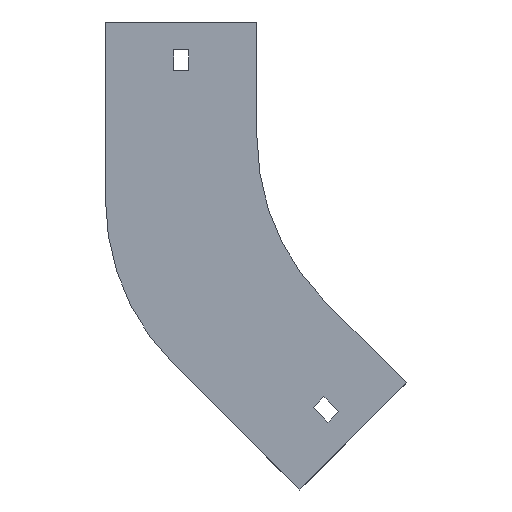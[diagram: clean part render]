
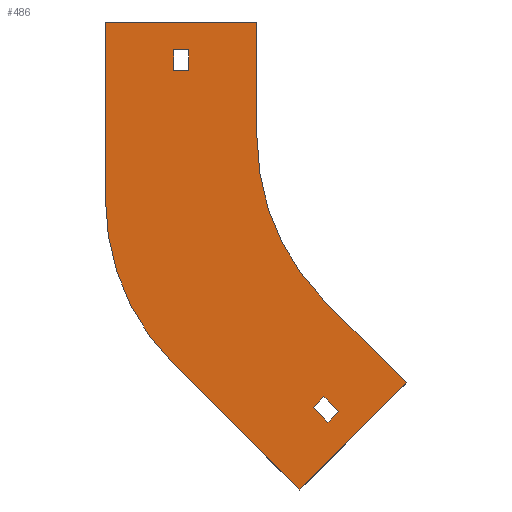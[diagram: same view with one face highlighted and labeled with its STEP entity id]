
A CAD part, front view. The second image highlights one B-rep face of the part: STEP entity #486.
In plain terms, the highlighted planar face has unit normal (0, -1, 0).
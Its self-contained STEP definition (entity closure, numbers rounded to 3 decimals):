
#20 = DIRECTION ( 'NONE',  ( 0., 0., 1. ) ) ;
#21 = VERTEX_POINT ( 'NONE', #853 ) ;
#24 = AXIS2_PLACEMENT_3D ( 'NONE', #1040, #64, #501 ) ;
#31 = VECTOR ( 'NONE', #1288, 1000. ) ;
#46 = EDGE_CURVE ( 'NONE', #248, #1009, #1381, .T. ) ;
#62 = EDGE_CURVE ( 'NONE', #21, #148, #1376, .T. ) ;
#64 = DIRECTION ( 'NONE',  ( 0., -1., 0. ) ) ;
#68 = VECTOR ( 'NONE', #1026, 1000. ) ;
#76 = EDGE_CURVE ( 'NONE', #832, #744, #741, .T. ) ;
#130 = LINE ( 'NONE', #1358, #434 ) ;
#133 = DIRECTION ( 'NONE',  ( 0., 1., 0. ) ) ;
#142 = CARTESIAN_POINT ( 'NONE',  ( -100., 0., 50. ) ) ;
#148 = VERTEX_POINT ( 'NONE', #1196 ) ;
#167 = DIRECTION ( 'NONE',  ( 0.707, 0., -0.707 ) ) ;
#185 = LINE ( 'NONE', #625, #1278 ) ;
#203 = LINE ( 'NONE', #1181, #724 ) ;
#206 = ORIENTED_EDGE ( 'NONE', *, *, #76, .F. ) ;
#208 = VERTEX_POINT ( 'NONE', #1221 ) ;
#220 = ORIENTED_EDGE ( 'NONE', *, *, #622, .F. ) ;
#222 = EDGE_CURVE ( 'NONE', #1009, #208, #185, .T. ) ;
#224 = CARTESIAN_POINT ( 'NONE',  ( -136., 0., 29. ) ) ;
#227 = VERTEX_POINT ( 'NONE', #633 ) ;
#230 = VERTEX_POINT ( 'NONE', #522 ) ;
#235 = ORIENTED_EDGE ( 'NONE', *, *, #222, .T. ) ;
#247 = CARTESIAN_POINT ( 'NONE',  ( -65.5, 0., -27.131 ) ) ;
#248 = VERTEX_POINT ( 'NONE', #586 ) ;
#299 = CIRCLE ( 'NONE', #1083, 100. ) ;
#305 = CARTESIAN_POINT ( 'NONE',  ( -136.211, 0., -97.842 ) ) ;
#312 = DIRECTION ( 'NONE',  ( 1., 0., 0. ) ) ;
#331 = VECTOR ( 'NONE', #334, 1000. ) ;
#334 = DIRECTION ( 'NONE',  ( 0., 0., -1. ) ) ;
#345 = ORIENTED_EDGE ( 'NONE', *, *, #46, .T. ) ;
#347 = VECTOR ( 'NONE', #167, 1000. ) ;
#357 = CARTESIAN_POINT ( 'NONE',  ( -100., 0., 0. ) ) ;
#383 = EDGE_CURVE ( 'NONE', #1054, #573, #1148, .T. ) ;
#398 = VECTOR ( 'NONE', #1240, 1000. ) ;
#432 = ORIENTED_EDGE ( 'NONE', *, *, #987, .F. ) ;
#434 = VECTOR ( 'NONE', #798, 1000. ) ;
#468 = ORIENTED_EDGE ( 'NONE', *, *, #1116, .F. ) ;
#486 = ADVANCED_FACE ( 'NONE', ( #1030, #492, #923 ), #1249, .T. ) ;
#489 = LINE ( 'NONE', #907, #536 ) ;
#492 = FACE_OUTER_BOUND ( 'NONE', #1295, .T. ) ;
#494 = VERTEX_POINT ( 'NONE', #1255 ) ;
#501 = DIRECTION ( 'NONE',  ( 0., 0., -1. ) ) ;
#522 = CARTESIAN_POINT ( 'NONE',  ( -70.711, 0., -70.711 ) ) ;
#525 = ORIENTED_EDGE ( 'NONE', *, *, #383, .F. ) ;
#528 = ORIENTED_EDGE ( 'NONE', *, *, #1229, .F. ) ;
#536 = VECTOR ( 'NONE', #1237, 1000. ) ;
#554 = CARTESIAN_POINT ( 'NONE',  ( -81.671, 0., -152.382 ) ) ;
#573 = VERTEX_POINT ( 'NONE', #1011 ) ;
#579 = AXIS2_PLACEMENT_3D ( 'NONE', #1258, #883, #925 ) ;
#586 = CARTESIAN_POINT ( 'NONE',  ( -129.5, 0., 29. ) ) ;
#588 = EDGE_CURVE ( 'NONE', #494, #683, #489, .T. ) ;
#589 = DIRECTION ( 'NONE',  ( 0., 0., 1. ) ) ;
#597 = CARTESIAN_POINT ( 'NONE',  ( -75.66, 0., -116.673 ) ) ;
#614 = CARTESIAN_POINT ( 'NONE',  ( -81.671, 0., -152.382 ) ) ;
#622 = EDGE_CURVE ( 'NONE', #1263, #230, #635, .T. ) ;
#625 = CARTESIAN_POINT ( 'NONE',  ( -136., 0., 29. ) ) ;
#627 = CARTESIAN_POINT ( 'NONE',  ( -136., 0., 29. ) ) ;
#633 = CARTESIAN_POINT ( 'NONE',  ( -129.5, 0., 38. ) ) ;
#635 = CIRCLE ( 'NONE', #579, 100. ) ;
#639 = EDGE_CURVE ( 'NONE', #573, #21, #130, .T. ) ;
#643 = DIRECTION ( 'NONE',  ( 1., 0., 0. ) ) ;
#650 = CARTESIAN_POINT ( 'NONE',  ( -100., 0., 50. ) ) ;
#683 = VERTEX_POINT ( 'NONE', #614 ) ;
#685 = ORIENTED_EDGE ( 'NONE', *, *, #62, .F. ) ;
#697 = CARTESIAN_POINT ( 'NONE',  ( -165.5, 0., -27.131 ) ) ;
#717 = LINE ( 'NONE', #1144, #347 ) ;
#724 = VECTOR ( 'NONE', #643, 1000. ) ;
#741 = LINE ( 'NONE', #1169, #843 ) ;
#744 = VERTEX_POINT ( 'NONE', #650 ) ;
#798 = DIRECTION ( 'NONE',  ( -0.707, 0., 0.707 ) ) ;
#812 = ORIENTED_EDGE ( 'NONE', *, *, #863, .T. ) ;
#820 = CARTESIAN_POINT ( 'NONE',  ( -69.296, 0., -123.037 ) ) ;
#828 = VERTEX_POINT ( 'NONE', #305 ) ;
#832 = VERTEX_POINT ( 'NONE', #1293 ) ;
#843 = VECTOR ( 'NONE', #312, 1000. ) ;
#853 = CARTESIAN_POINT ( 'NONE',  ( -71.064, 0., -112.076 ) ) ;
#860 = CARTESIAN_POINT ( 'NONE',  ( -75.66, 0., -116.673 ) ) ;
#863 = EDGE_CURVE ( 'NONE', #208, #227, #203, .T. ) ;
#883 = DIRECTION ( 'NONE',  ( 0., -1., 0. ) ) ;
#902 = ORIENTED_EDGE ( 'NONE', *, *, #1289, .F. ) ;
#907 = CARTESIAN_POINT ( 'NONE',  ( -35.355, 0., -106.066 ) ) ;
#923 = FACE_BOUND ( 'NONE', #1208, .T. ) ;
#925 = DIRECTION ( 'NONE',  ( 0., 0., -1. ) ) ;
#936 = CARTESIAN_POINT ( 'NONE',  ( -165.5, 0., -27.131 ) ) ;
#946 = DIRECTION ( 'NONE',  ( -1., 0., 0. ) ) ;
#963 = VECTOR ( 'NONE', #1000, 1000. ) ;
#987 = EDGE_CURVE ( 'NONE', #683, #828, #1010, .T. ) ;
#988 = CARTESIAN_POINT ( 'NONE',  ( -69.296, 0., -123.037 ) ) ;
#995 = VERTEX_POINT ( 'NONE', #697 ) ;
#1000 = DIRECTION ( 'NONE',  ( -0.707, 0., 0.707 ) ) ;
#1009 = VERTEX_POINT ( 'NONE', #224 ) ;
#1010 = LINE ( 'NONE', #554, #963 ) ;
#1011 = CARTESIAN_POINT ( 'NONE',  ( -64.7, 0., -118.44 ) ) ;
#1015 = VECTOR ( 'NONE', #1159, 1000. ) ;
#1026 = DIRECTION ( 'NONE',  ( 0.707, 0., -0.707 ) ) ;
#1030 = FACE_BOUND ( 'NONE', #1272, .T. ) ;
#1040 = CARTESIAN_POINT ( 'NONE',  ( 0., 0., 0. ) ) ;
#1045 = LINE ( 'NONE', #1354, #1015 ) ;
#1052 = DIRECTION ( 'NONE',  ( 0., 0., 1. ) ) ;
#1054 = VERTEX_POINT ( 'NONE', #988 ) ;
#1083 = AXIS2_PLACEMENT_3D ( 'NONE', #247, #133, #20 ) ;
#1087 = ORIENTED_EDGE ( 'NONE', *, *, #1403, .F. ) ;
#1116 = EDGE_CURVE ( 'NONE', #230, #494, #717, .T. ) ;
#1131 = ORIENTED_EDGE ( 'NONE', *, *, #639, .F. ) ;
#1133 = VECTOR ( 'NONE', #946, 1000. ) ;
#1142 = EDGE_CURVE ( 'NONE', #995, #832, #1246, .T. ) ;
#1144 = CARTESIAN_POINT ( 'NONE',  ( -70.711, 0., -70.711 ) ) ;
#1148 = LINE ( 'NONE', #820, #398 ) ;
#1153 = VECTOR ( 'NONE', #589, 1000. ) ;
#1159 = DIRECTION ( 'NONE',  ( 0., 0., -1. ) ) ;
#1169 = CARTESIAN_POINT ( 'NONE',  ( -165.5, 0., 50. ) ) ;
#1181 = CARTESIAN_POINT ( 'NONE',  ( -136., 0., 38. ) ) ;
#1196 = CARTESIAN_POINT ( 'NONE',  ( -75.66, 0., -116.673 ) ) ;
#1208 = EDGE_LOOP ( 'NONE', ( #525, #1087, #685, #1131 ) ) ;
#1221 = CARTESIAN_POINT ( 'NONE',  ( -136., 0., 38. ) ) ;
#1229 = EDGE_CURVE ( 'NONE', #744, #1263, #1310, .T. ) ;
#1237 = DIRECTION ( 'NONE',  ( -0.707, 0., -0.707 ) ) ;
#1240 = DIRECTION ( 'NONE',  ( 0.707, 0., 0.707 ) ) ;
#1246 = LINE ( 'NONE', #936, #1153 ) ;
#1249 = PLANE ( 'NONE',  #24 ) ;
#1255 = CARTESIAN_POINT ( 'NONE',  ( -35.355, 0., -106.066 ) ) ;
#1258 = CARTESIAN_POINT ( 'NONE',  ( 0., 0., 0. ) ) ;
#1262 = LINE ( 'NONE', #597, #68 ) ;
#1263 = VERTEX_POINT ( 'NONE', #357 ) ;
#1272 = EDGE_LOOP ( 'NONE', ( #235, #812, #1324, #345 ) ) ;
#1278 = VECTOR ( 'NONE', #1052, 1000. ) ;
#1288 = DIRECTION ( 'NONE',  ( -0.707, 0., -0.707 ) ) ;
#1289 = EDGE_CURVE ( 'NONE', #828, #995, #299, .T. ) ;
#1290 = ORIENTED_EDGE ( 'NONE', *, *, #588, .F. ) ;
#1293 = CARTESIAN_POINT ( 'NONE',  ( -165.5, 0., 50. ) ) ;
#1295 = EDGE_LOOP ( 'NONE', ( #206, #1395, #902, #432, #1290, #468, #220, #528 ) ) ;
#1310 = LINE ( 'NONE', #142, #331 ) ;
#1324 = ORIENTED_EDGE ( 'NONE', *, *, #1399, .T. ) ;
#1354 = CARTESIAN_POINT ( 'NONE',  ( -129.5, 0., 29. ) ) ;
#1358 = CARTESIAN_POINT ( 'NONE',  ( -71.064, 0., -112.076 ) ) ;
#1376 = LINE ( 'NONE', #860, #31 ) ;
#1381 = LINE ( 'NONE', #627, #1133 ) ;
#1395 = ORIENTED_EDGE ( 'NONE', *, *, #1142, .F. ) ;
#1399 = EDGE_CURVE ( 'NONE', #227, #248, #1045, .T. ) ;
#1403 = EDGE_CURVE ( 'NONE', #148, #1054, #1262, .T. ) ;
